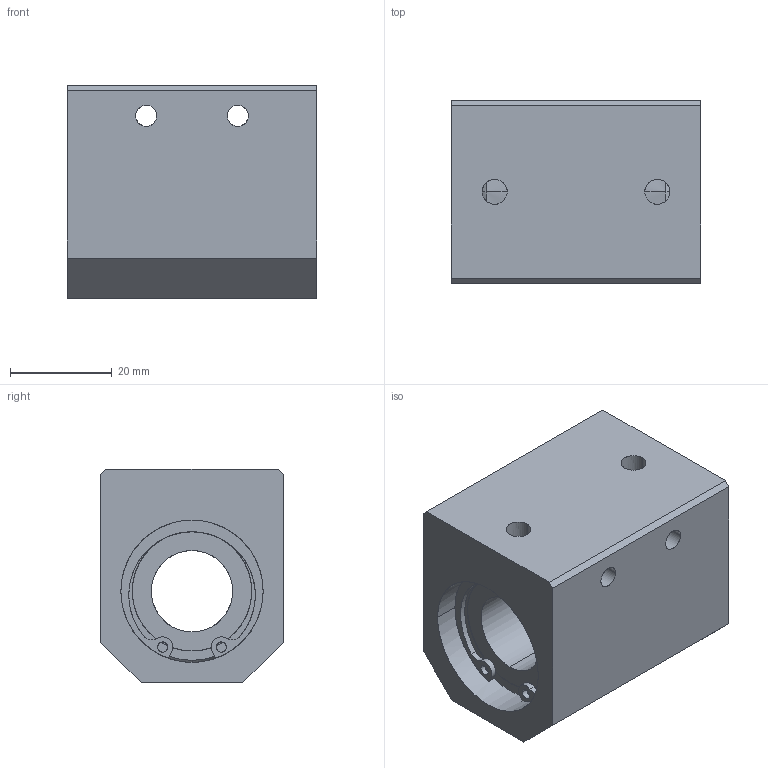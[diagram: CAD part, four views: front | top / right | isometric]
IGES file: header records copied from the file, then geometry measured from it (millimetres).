
Global section: file name: No Iges File Name specified; native system: AutoDesk Inventor R10; preprocessor: AutoDesk Inventor Iges Exporter R10; author: No Author specified; organization: No Organization specified; date: 20101213.093954; units: millimetre
Bounding box: 49 x 36 x 42 mm (x, y, z)
Surface area: 15106 mm2 (no closed solid volume)
Topology: 0 solids, 0 shells, 102 faces, 808 edges, 808 vertices
Faces by surface type: bspline 102
